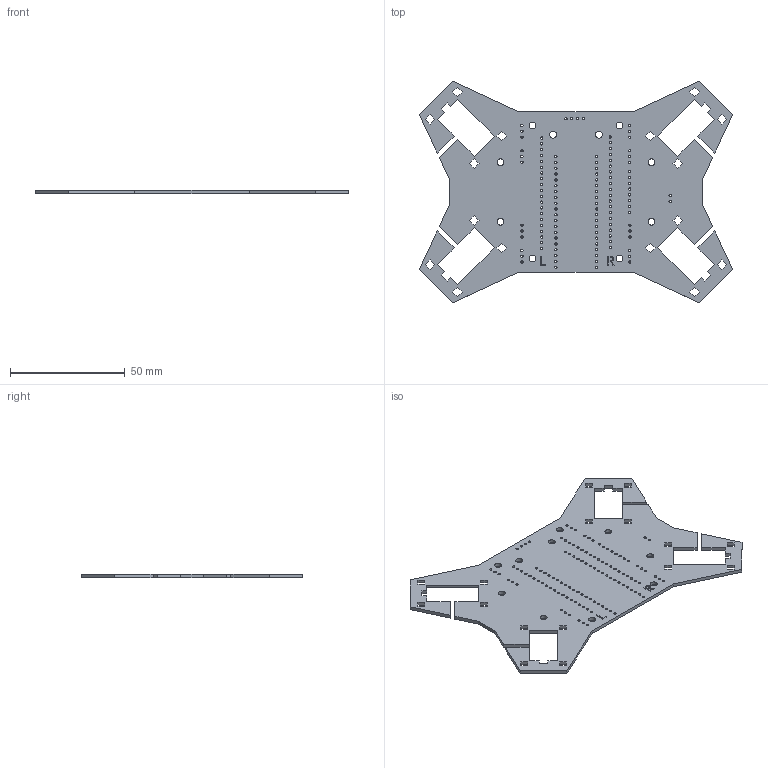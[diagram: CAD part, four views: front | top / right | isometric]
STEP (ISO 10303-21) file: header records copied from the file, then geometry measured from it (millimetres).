
FILE_DESCRIPTION(/* description */ ('STEP AP242 Edition 2','CAx-IF Rec.Pracs.---Representation and Presentation of Product Manufacturing Information (PMI)---4.0---2014-10-13','CAx-IF Rec.Pracs.---3D Tessellated Geometry---0.4---2014-09-14','2;1','CAx-IF Rec.Pracs.---User Defined Attributes---1.5---2016-08-15'),/* implementation_level */ '2;1');
FILE_NAME(/* name */ 'HIRO posing assembly - Takamori_Robotics_Project_PCB',/* time_stamp */ '2026-11-04T05:15:30Z',/* author */ (''),/* organization */ (''),/* preprocessor_version */ 'ST-DEVELOPER v20',/* originating_system */ 'ONSHAPE BY PTC INC, 1.223',/* authorisation */ ' ');
FILE_SCHEMA (('AP242_MANAGED_MODEL_BASED_3D_ENGINEERING_MIM_LF { 1 0 10303 442 3 1 4 }'));
Length unit declared in the file: metre
Products named in the file (1): Takamori_Robotics_Project_PCB
Bounding box: 136.85 x 96.85 x 1.71 mm (x, y, z)
Volume: 12254.3 mm3; surface area: 18475.4 mm2
Topology: 1 solids, 1 shells, 333 faces, 984 edges, 656 vertices
Faces by surface type: cylinder 176, plane 150, bspline 7
Full cylindrical faces by diameter (mm): 1 x70, 3 x10
Entity records: 12298 total; most frequent: CARTESIAN_POINT 1971, DIRECTION 1896, ORIENTED_EDGE 1808, EDGE_CURVE 904, EDGE_LOOP 704, FACE_BOUND 704, AXIS2_PLACEMENT_3D 679, VERTEX_POINT 656
